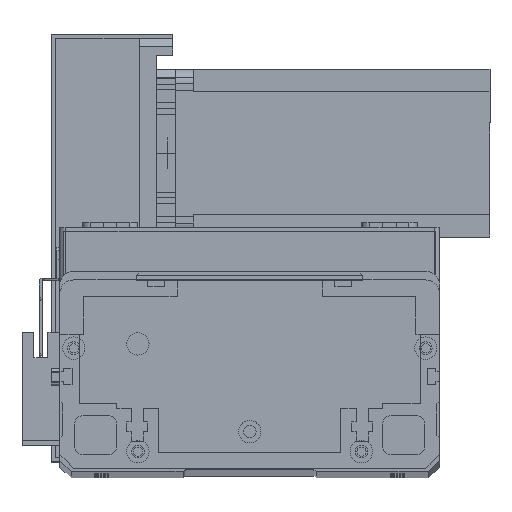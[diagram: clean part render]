
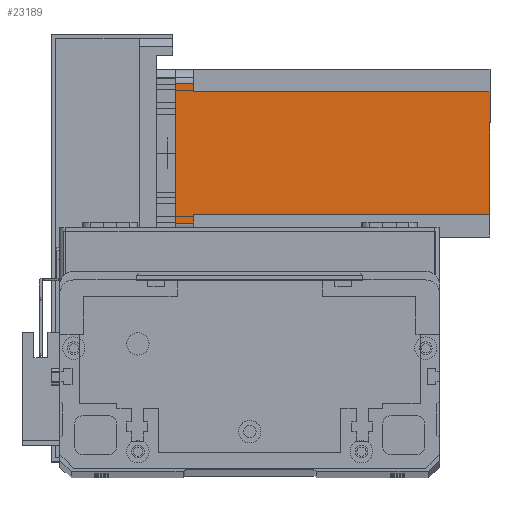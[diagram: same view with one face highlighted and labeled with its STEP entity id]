
A CAD part, top view. The second image highlights one B-rep face of the part: STEP entity #23189.
In plain terms, the highlighted planar face has unit normal (0, 0, 1) as drawn and (0, -1, 0) by its records, which use the part's own axes.
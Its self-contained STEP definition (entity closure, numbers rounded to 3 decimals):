
#833 = ORIENTED_EDGE ( 'NONE', *, *, #8732, .T. ) ;
#978 = LINE ( 'NONE', #2005, #12558 ) ;
#1003 = CARTESIAN_POINT ( 'NONE',  ( 8., 0., -6.5 ) ) ;
#1517 = DIRECTION ( 'NONE',  ( 1., 0., 0. ) ) ;
#1730 = LINE ( 'NONE', #22730, #29022 ) ;
#2005 = CARTESIAN_POINT ( 'NONE',  ( 8., 0., -112.5 ) ) ;
#3168 = CARTESIAN_POINT ( 'NONE',  ( 55., 0., 0. ) ) ;
#3189 = DIRECTION ( 'NONE',  ( 0., 0., 1. ) ) ;
#3356 = LINE ( 'NONE', #3425, #15691 ) ;
#3425 = CARTESIAN_POINT ( 'NONE',  ( 8., 0., -6.5 ) ) ;
#3645 = CARTESIAN_POINT ( 'NONE',  ( 52., 0., -6.5 ) ) ;
#4225 = ORIENTED_EDGE ( 'NONE', *, *, #5197, .F. ) ;
#4895 = LINE ( 'NONE', #28963, #16505 ) ;
#4990 = VERTEX_POINT ( 'NONE', #10420 ) ;
#5197 = EDGE_CURVE ( 'NONE', #7040, #18099, #1730, .T. ) ;
#5990 = LINE ( 'NONE', #7575, #7447 ) ;
#6342 = DIRECTION ( 'NONE',  ( 1., 0., 0. ) ) ;
#6458 = CARTESIAN_POINT ( 'NONE',  ( 5., 0., -6.5 ) ) ;
#6493 = EDGE_CURVE ( 'NONE', #24085, #14288, #4895, .T. ) ;
#6656 = AXIS2_PLACEMENT_3D ( 'NONE', #25167, #11625, #27329 ) ;
#6668 = EDGE_CURVE ( 'NONE', #7040, #4990, #5990, .T. ) ;
#6800 = VECTOR ( 'NONE', #25377, 1000. ) ;
#7040 = VERTEX_POINT ( 'NONE', #3645 ) ;
#7340 = ORIENTED_EDGE ( 'NONE', *, *, #7569, .F. ) ;
#7447 = VECTOR ( 'NONE', #7772, 1000. ) ;
#7569 = EDGE_CURVE ( 'NONE', #15911, #10814, #978, .T. ) ;
#7575 = CARTESIAN_POINT ( 'NONE',  ( 52., 0., -6.5 ) ) ;
#7772 = DIRECTION ( 'NONE',  ( 1., 0., 0. ) ) ;
#8732 = EDGE_CURVE ( 'NONE', #4990, #14288, #16042, .T. ) ;
#9260 = PLANE ( 'NONE',  #6656 ) ;
#9919 = ORIENTED_EDGE ( 'NONE', *, *, #6493, .F. ) ;
#10420 = CARTESIAN_POINT ( 'NONE',  ( 55., 0., -6.5 ) ) ;
#10814 = VERTEX_POINT ( 'NONE', #1003 ) ;
#11600 = EDGE_LOOP ( 'NONE', ( #14135, #833, #9919, #18843, #25180, #7340, #17115, #4225 ) ) ;
#11625 = DIRECTION ( 'NONE',  ( 0., -1., 0. ) ) ;
#11922 = VECTOR ( 'NONE', #6342, 1000. ) ;
#12558 = VECTOR ( 'NONE', #22551, 1000. ) ;
#13481 = EDGE_CURVE ( 'NONE', #24085, #26725, #19023, .T. ) ;
#14069 = CARTESIAN_POINT ( 'NONE',  ( 5., 0., -112.5 ) ) ;
#14135 = ORIENTED_EDGE ( 'NONE', *, *, #6668, .T. ) ;
#14288 = VERTEX_POINT ( 'NONE', #3168 ) ;
#14389 = CARTESIAN_POINT ( 'NONE',  ( 8., 0., -112.5 ) ) ;
#15059 = CARTESIAN_POINT ( 'NONE',  ( 52., 0., -112.5 ) ) ;
#15691 = VECTOR ( 'NONE', #21715, 1000. ) ;
#15739 = FACE_OUTER_BOUND ( 'NONE', #11600, .T. ) ;
#15911 = VERTEX_POINT ( 'NONE', #14389 ) ;
#16042 = LINE ( 'NONE', #28090, #20617 ) ;
#16505 = VECTOR ( 'NONE', #1517, 1000. ) ;
#17115 = ORIENTED_EDGE ( 'NONE', *, *, #19570, .T. ) ;
#17491 = EDGE_CURVE ( 'NONE', #10814, #26725, #3356, .T. ) ;
#18014 = LINE ( 'NONE', #20113, #11922 ) ;
#18099 = VERTEX_POINT ( 'NONE', #15059 ) ;
#18843 = ORIENTED_EDGE ( 'NONE', *, *, #13481, .T. ) ;
#19023 = LINE ( 'NONE', #14069, #6800 ) ;
#19570 = EDGE_CURVE ( 'NONE', #15911, #18099, #18014, .T. ) ;
#20113 = CARTESIAN_POINT ( 'NONE',  ( 0., 0., -112.5 ) ) ;
#20617 = VECTOR ( 'NONE', #3189, 1000. ) ;
#21543 = CARTESIAN_POINT ( 'NONE',  ( 5., 0., 0. ) ) ;
#21715 = DIRECTION ( 'NONE',  ( -1., 0., 0. ) ) ;
#22551 = DIRECTION ( 'NONE',  ( 0., 0., 1. ) ) ;
#22671 = DIRECTION ( 'NONE',  ( 0., 0., -1. ) ) ;
#22730 = CARTESIAN_POINT ( 'NONE',  ( 52., 0., -112.5 ) ) ;
#23189 = ADVANCED_FACE ( 'NONE', ( #15739 ), #9260, .T. ) ;
#24085 = VERTEX_POINT ( 'NONE', #21543 ) ;
#25167 = CARTESIAN_POINT ( 'NONE',  ( 0., 0., -112.5 ) ) ;
#25180 = ORIENTED_EDGE ( 'NONE', *, *, #17491, .F. ) ;
#25377 = DIRECTION ( 'NONE',  ( 0., 0., -1. ) ) ;
#26725 = VERTEX_POINT ( 'NONE', #6458 ) ;
#27329 = DIRECTION ( 'NONE',  ( 0., 0., -1. ) ) ;
#28090 = CARTESIAN_POINT ( 'NONE',  ( 55., 0., -112.5 ) ) ;
#28963 = CARTESIAN_POINT ( 'NONE',  ( 0., 0., 0. ) ) ;
#29022 = VECTOR ( 'NONE', #22671, 1000. ) ;
